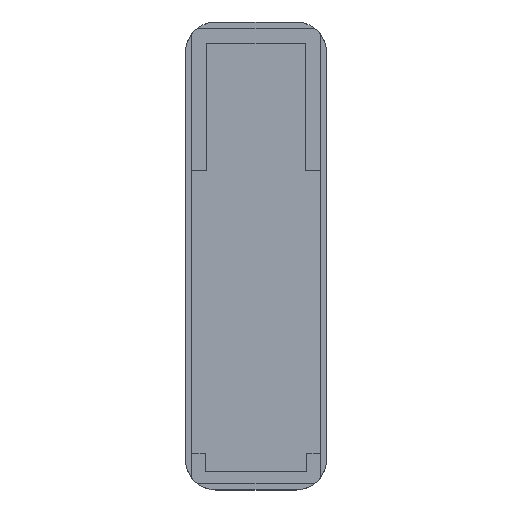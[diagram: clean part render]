
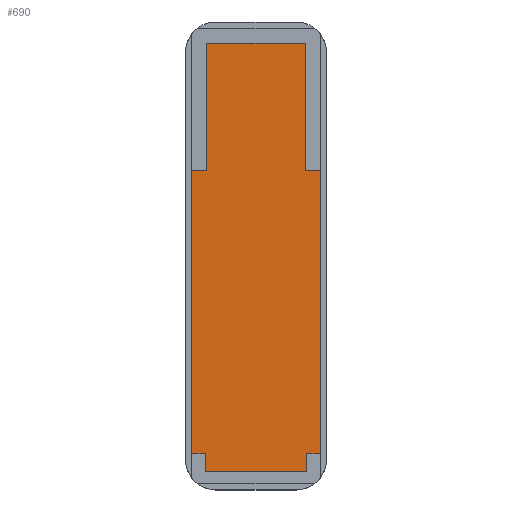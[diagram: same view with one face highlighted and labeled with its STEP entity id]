
A CAD part, top view. The second image highlights one B-rep face of the part: STEP entity #690.
In plain terms, the highlighted planar face has unit normal (0, 0, 1).
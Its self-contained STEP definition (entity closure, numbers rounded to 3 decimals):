
#28=PLANE('',#770);
#62=LINE('',#1079,#134);
#87=LINE('',#1140,#159);
#95=LINE('',#1155,#167);
#96=LINE('',#1157,#168);
#97=LINE('',#1159,#169);
#98=LINE('',#1161,#170);
#99=LINE('',#1163,#171);
#100=LINE('',#1164,#172);
#101=LINE('',#1166,#173);
#102=LINE('',#1168,#174);
#103=LINE('',#1170,#175);
#104=LINE('',#1171,#176);
#134=VECTOR('',#878,10.);
#159=VECTOR('',#935,10.);
#167=VECTOR('',#947,10.);
#168=VECTOR('',#948,10.);
#169=VECTOR('',#949,10.);
#170=VECTOR('',#950,10.);
#171=VECTOR('',#951,10.);
#172=VECTOR('',#952,10.);
#173=VECTOR('',#953,10.);
#174=VECTOR('',#954,10.);
#175=VECTOR('',#955,10.);
#176=VECTOR('',#956,10.);
#218=FACE_OUTER_BOUND('',#256,.T.);
#256=EDGE_LOOP('',(#601,#602,#603,#604,#605,#606,#607,#608,#609,#610,#611,
#612));
#327=VERTEX_POINT('',#1076);
#328=VERTEX_POINT('',#1078);
#347=VERTEX_POINT('',#1137);
#348=VERTEX_POINT('',#1139);
#353=VERTEX_POINT('',#1154);
#354=VERTEX_POINT('',#1156);
#355=VERTEX_POINT('',#1158);
#356=VERTEX_POINT('',#1160);
#357=VERTEX_POINT('',#1162);
#358=VERTEX_POINT('',#1165);
#359=VERTEX_POINT('',#1167);
#360=VERTEX_POINT('',#1169);
#404=EDGE_CURVE('',#328,#327,#62,.T.);
#435=EDGE_CURVE('',#348,#347,#87,.T.);
#443=EDGE_CURVE('',#353,#348,#95,.T.);
#444=EDGE_CURVE('',#347,#354,#96,.T.);
#445=EDGE_CURVE('',#354,#355,#97,.T.);
#446=EDGE_CURVE('',#355,#356,#98,.T.);
#447=EDGE_CURVE('',#356,#357,#99,.T.);
#448=EDGE_CURVE('',#357,#328,#100,.T.);
#449=EDGE_CURVE('',#327,#358,#101,.T.);
#450=EDGE_CURVE('',#358,#359,#102,.T.);
#451=EDGE_CURVE('',#359,#360,#103,.T.);
#452=EDGE_CURVE('',#360,#353,#104,.T.);
#601=ORIENTED_EDGE('',*,*,#443,.T.);
#602=ORIENTED_EDGE('',*,*,#435,.T.);
#603=ORIENTED_EDGE('',*,*,#444,.T.);
#604=ORIENTED_EDGE('',*,*,#445,.T.);
#605=ORIENTED_EDGE('',*,*,#446,.T.);
#606=ORIENTED_EDGE('',*,*,#447,.T.);
#607=ORIENTED_EDGE('',*,*,#448,.T.);
#608=ORIENTED_EDGE('',*,*,#404,.T.);
#609=ORIENTED_EDGE('',*,*,#449,.T.);
#610=ORIENTED_EDGE('',*,*,#450,.T.);
#611=ORIENTED_EDGE('',*,*,#451,.T.);
#612=ORIENTED_EDGE('',*,*,#452,.T.);
#690=ADVANCED_FACE('',(#218),#28,.F.);
#770=AXIS2_PLACEMENT_3D('',#1153,#945,#946);
#878=DIRECTION('',(0.,-1.,0.));
#935=DIRECTION('',(0.,1.,0.));
#945=DIRECTION('center_axis',(0.,0.,-1.));
#946=DIRECTION('ref_axis',(1.,0.,0.));
#947=DIRECTION('',(1.,0.,0.));
#948=DIRECTION('',(-1.,0.,0.));
#949=DIRECTION('',(0.,1.,0.));
#950=DIRECTION('',(-1.,0.,0.));
#951=DIRECTION('',(0.,-1.,0.));
#952=DIRECTION('',(-1.,0.,0.));
#953=DIRECTION('',(1.,0.,0.));
#954=DIRECTION('',(0.,-1.,0.));
#955=DIRECTION('',(1.,0.,0.));
#956=DIRECTION('',(0.,1.,0.));
#1076=CARTESIAN_POINT('',(0.,-140.5,-12.));
#1078=CARTESIAN_POINT('',(0.,-47.,-12.));
#1079=CARTESIAN_POINT('',(0.,0.,-12.));
#1137=CARTESIAN_POINT('',(42.5,-47.,-12.));
#1139=CARTESIAN_POINT('',(42.5,-140.5,-12.));
#1140=CARTESIAN_POINT('',(42.5,-150.5,-12.));
#1153=CARTESIAN_POINT('Origin',(21.25,-75.25,-12.));
#1154=CARTESIAN_POINT('',(38.,-140.5,-12.));
#1155=CARTESIAN_POINT('',(42.5,-140.5,-12.));
#1156=CARTESIAN_POINT('',(37.5,-47.,-12.));
#1157=CARTESIAN_POINT('',(0.,-47.,-12.));
#1158=CARTESIAN_POINT('',(37.5,-5.,-12.));
#1159=CARTESIAN_POINT('',(37.5,-5.,-12.));
#1160=CARTESIAN_POINT('',(5.,-5.,-12.));
#1161=CARTESIAN_POINT('',(0.,-5.,-12.));
#1162=CARTESIAN_POINT('',(5.,-47.,-12.));
#1163=CARTESIAN_POINT('',(5.,-5.,-12.));
#1164=CARTESIAN_POINT('',(0.,-47.,-12.));
#1165=CARTESIAN_POINT('',(4.5,-140.5,-12.));
#1166=CARTESIAN_POINT('',(0.,-140.5,-12.));
#1167=CARTESIAN_POINT('',(4.5,-146.5,-12.));
#1168=CARTESIAN_POINT('',(4.5,-140.5,-12.));
#1169=CARTESIAN_POINT('',(38.,-146.5,-12.));
#1170=CARTESIAN_POINT('',(42.5,-146.5,-12.));
#1171=CARTESIAN_POINT('',(38.,-140.5,-12.));
